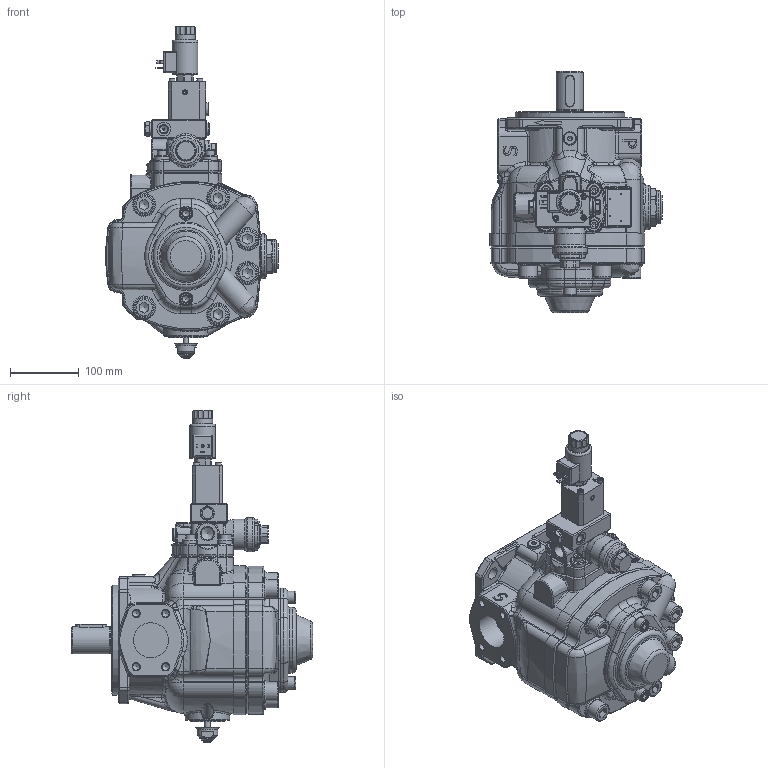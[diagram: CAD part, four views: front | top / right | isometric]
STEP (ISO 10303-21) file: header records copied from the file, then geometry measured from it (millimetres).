
FILE_DESCRIPTION(/* description */ (''),/* implementation_level */ '2;1');
FILE_NAME(/* name */ 'W:\Tecnico\Archivio\Berarma\Dimensioni Pompe\3D Export\Montaggio 3D semplificato\PLP-PHP 3\PHP 3 -A PCLS005.stp',/* time_stamp */ '2018-10-10T08:43:28+02:00',/* author */ ('marcop'),/* organization */ (''),/* preprocessor_version */ 'ST-DEVELOPER v17',/* originating_system */ 'Autodesk Inventor 2018',/* authorisation */ '');
FILE_SCHEMA (('AUTOMOTIVE_DESIGN { 1 0 10303 214 3 1 1 }'));
Length unit declared in the file: millimetre
Products named in the file (1): PLP-PHP 3_Shrinkwrap_1
Bounding box: 251.18 x 352 x 484.65 mm (x, y, z)
Volume: 7159302.3 mm3; surface area: 606535 mm2
Topology: 2 solids, 2 shells, 2460 faces, 6365 edges, 3939 vertices
Faces by surface type: plane 897, cylinder 561, bspline 462, cone 247, torus 245, sphere 48
Full cylindrical faces by diameter (mm): 1.6 x3, 1.7 x4, 3 x3, 3.15 x1, 3.242 x1, 4 x3, 4.3 x1, 5 x7, 6 x1, 6.5 x3, 7.2 x13, 8 x2, 8.376 x4, 8.5 x4, 9.5 x1, 10.106 x4, 11.049 x1, 11.1 x1, 11.445 x4, 12 x4, 13 x4, 14 x1, 15.5 x2, 16.789 x1, 17.805 x1, 17.84 x1, 18 x6, 18.631 x1, 18.999 x2, 19 x8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
Entity records: 93830 total; most frequent: CARTESIAN_POINT 33994, ORIENTED_EDGE 12544, DIRECTION 11355, EDGE_CURVE 6272, AXIS2_PLACEMENT_3D 4419, VERTEX_POINT 3939, EDGE_LOOP 2666, LINE 2517
